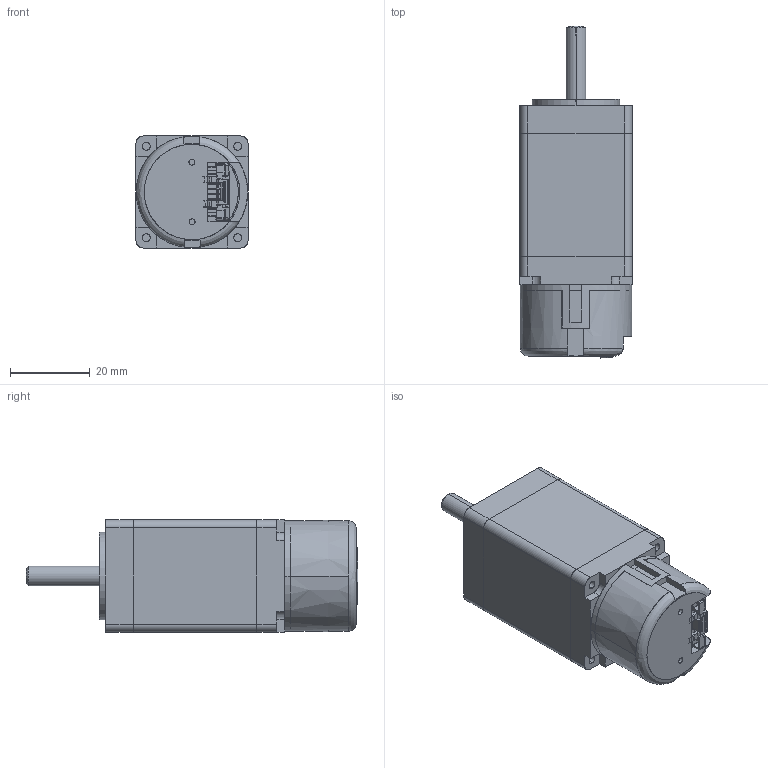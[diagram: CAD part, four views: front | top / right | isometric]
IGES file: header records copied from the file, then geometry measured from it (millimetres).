
Start section: SolidWorks IGES file using analytic representation for surfaces
Global section: file name: C:\Users\IEUser\Dropbox\Arcus\Project #21 Motor Drawings\STM-11-2-2-E100A\STM-11-2-2-E100A.IGS; native system: SolidWorks 2008; preprocessor: SolidWorks 2008; author: IEUser; date: 131218.203502; units: millimetre
Bounding box: 28.2 x 83.45 x 28.2 mm (x, y, z)
Surface area: 17539.6 mm2 (no closed solid volume)
Topology: 0 solids, 0 shells, 1015 faces, 7511 edges, 7499 vertices
Faces by surface type: bspline 841, revolution 174
